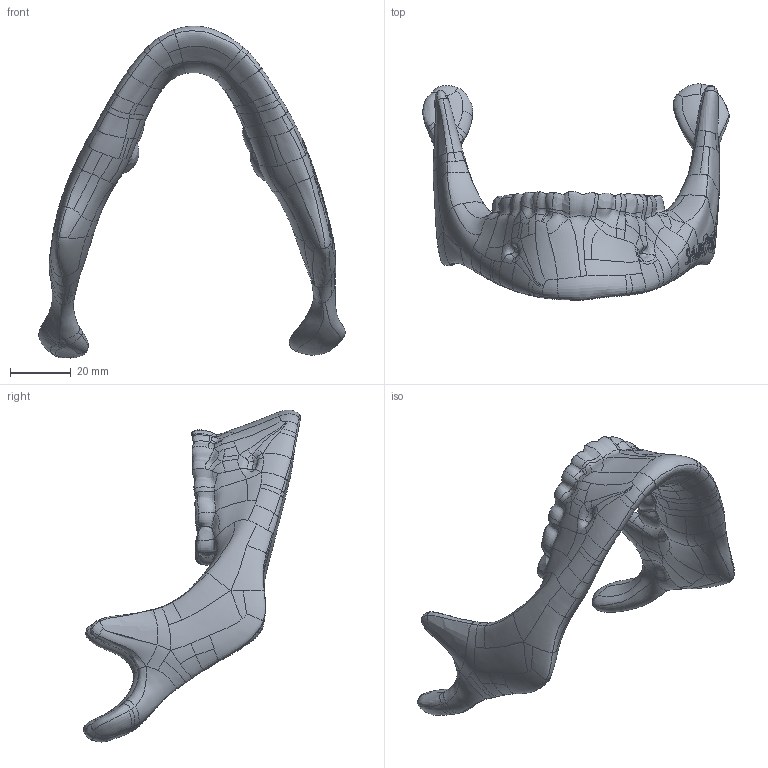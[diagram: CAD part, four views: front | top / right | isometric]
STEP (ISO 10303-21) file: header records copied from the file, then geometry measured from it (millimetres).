
FILE_DESCRIPTION (( 'STEP AP203' ), '1' );
FILE_NAME ('1337-1.STEP', '2025-06-19T20:24:49', ( '' ), ( '' ), 'SwSTEP 2.0', 'SolidWorks 2024', '' );
FILE_SCHEMA (( 'CONFIG_CONTROL_DESIGN' ));
Products named in the file (1): 1337-1
Bounding box: 101.11 x 71.65 x 109.6 mm (x, y, z)
Volume: 57885.2 mm3; surface area: 17431.3 mm2
Topology: 1 solids, 1 shells, 628 faces, 1575 edges, 954 vertices
Faces by surface type: bspline 628
Entity records: 315366 total; most frequent: CARTESIAN_POINT 305506, ORIENTED_EDGE 3150, B_SPLINE_CURVE_WITH_KNOTS 1575, EDGE_CURVE 1575, VERTEX_POINT 954, EDGE_LOOP 633, B_SPLINE_SURFACE_WITH_KNOTS 628, FACE_OUTER_BOUND 628
